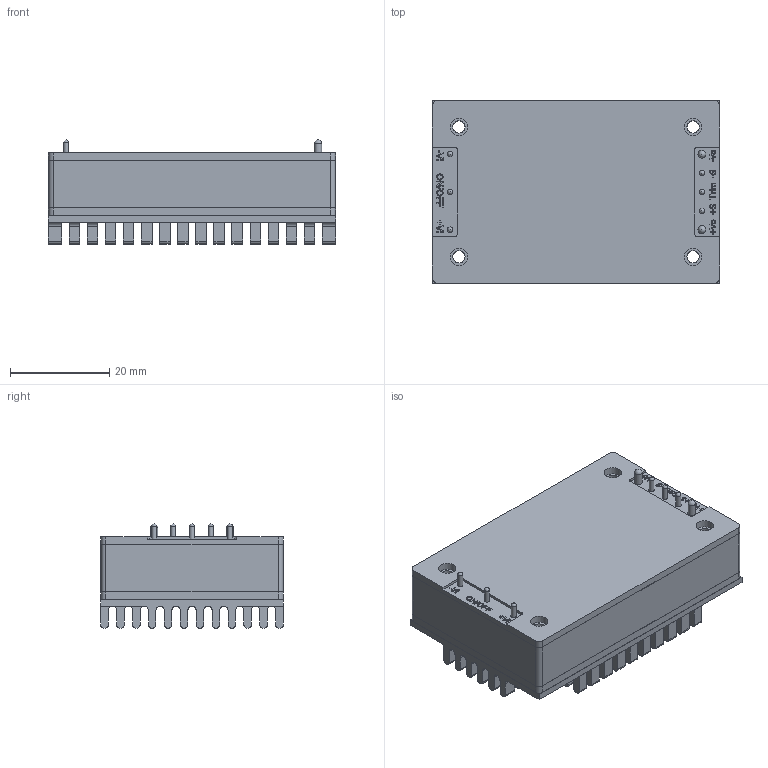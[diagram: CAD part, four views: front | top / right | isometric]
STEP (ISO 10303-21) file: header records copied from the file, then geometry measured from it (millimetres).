
FILE_DESCRIPTION(/* description */ (''),/* implementation_level */ '2;1');
FILE_NAME(/* name */ 'C:\Users\QIU\Documents\Inventor\專案部\\X2\532F5165768451434EF6\X0\\MTQZ-50+75 鋁擠型散熱片(086-HS-35)(0)\MTQZ50(75)-HS product.stp',/* time_stamp */ '2016-07-21T10:32:24+08:00',/* author */ ('QIU'),/* organization */ (''),/* preprocessor_version */ 'ST-DEVELOPER v15.2',/* originating_system */ 'Autodesk Inventor 2014',/* authorisation */ '');
FILE_SCHEMA (('AUTOMOTIVE_DESIGN { 1 0 10303 214 3 1 1 }'));
Length unit declared in the file: millimetre
Products named in the file (3): MTQZ50+MTQZ75(3D); MTQZ-50+75 鋁擠型散熱片(3D); MTQZ50(75)-HS product
Bounding box: 57.9 x 36.8 x 21 mm (x, y, z)
Volume: 31663 mm3; surface area: 16377.2 mm2
Topology: 2 solids, 2 shells, 1491 faces, 4296 edges, 2864 vertices
Faces by surface type: plane 747, cylinder 652, bspline 84, sphere 8
Full cylindrical faces by diameter (mm): 1 x6, 1.1 x6, 1.5 x2, 1.6 x2, 2.459 x4, 3.5 x12
Entity records: 49436 total; most frequent: CARTESIAN_POINT 9692, ORIENTED_EDGE 8480, DIRECTION 8200, EDGE_CURVE 4240, VERTEX_POINT 2848, LINE 2768, VECTOR 2768, AXIS2_PLACEMENT_3D 2716
